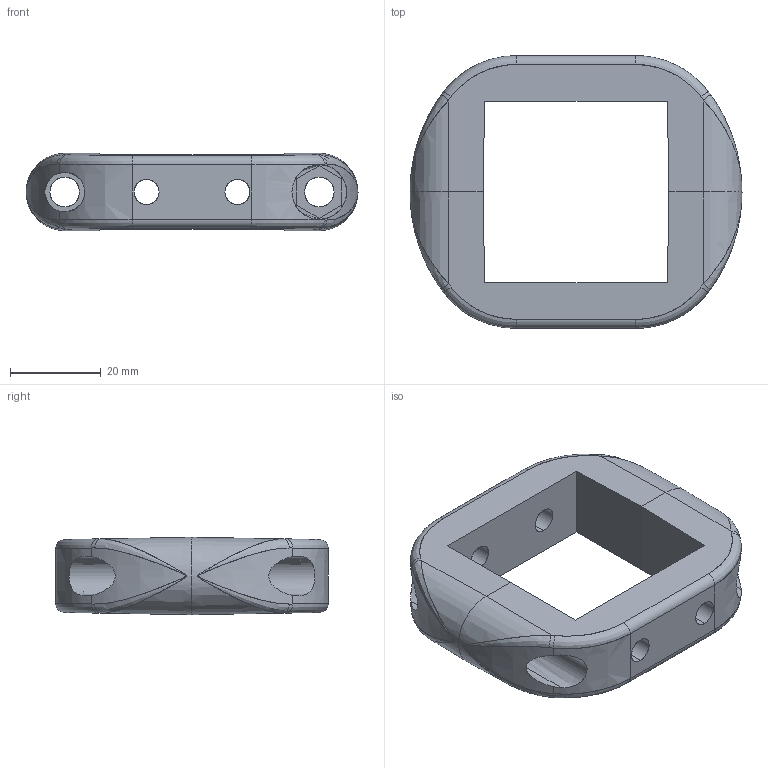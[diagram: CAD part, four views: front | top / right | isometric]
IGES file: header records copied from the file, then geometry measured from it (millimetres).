
Start section: SolidWorks IGES file using analytic representation for surfaces
Global section: file name: F:\3B WINRAR\B KATALOGU\DÝÞLÝ SABÝTLEME BÝLEZÝÐÝ\40x40 kelepçe .IGS; native system: SolidWorks 2008; preprocessor: SolidWorks 2008; author: Administrator; date: 110517.145224; units: millimetre
Bounding box: 73.05 x 60 x 17.05 mm (x, y, z)
Surface area: 12629.4 mm2 (no closed solid volume)
Topology: 0 solids, 0 shells, 86 faces, 1420 edges, 1420 vertices
Faces by surface type: bspline 50, revolution 36
